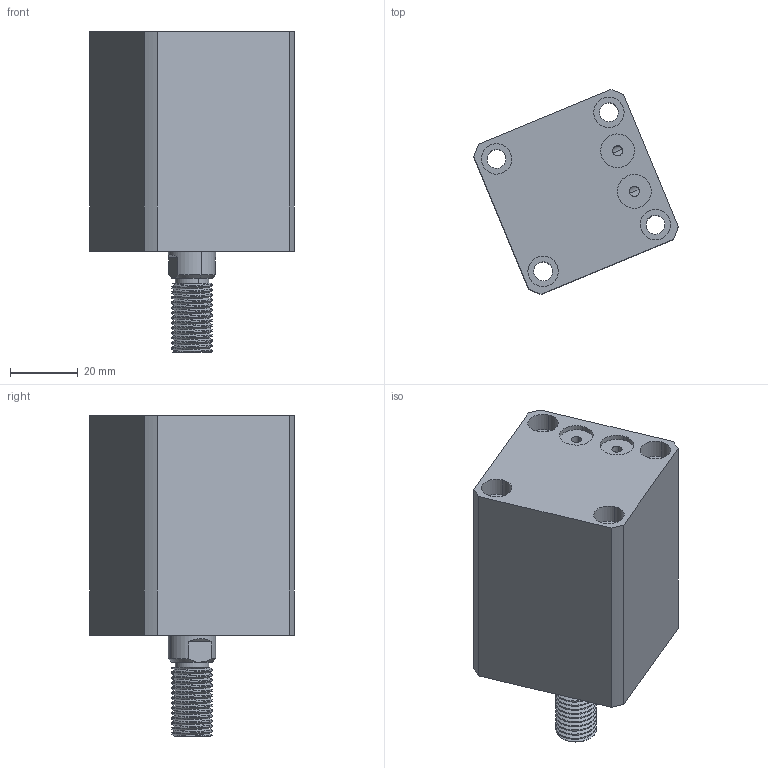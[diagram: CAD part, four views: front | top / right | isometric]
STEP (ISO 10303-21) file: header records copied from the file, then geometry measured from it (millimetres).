
FILE_DESCRIPTION (( 'STEP AP214' ), '1' );
FILE_NAME ('chtb-sdmb25x20w_asm.STEP', '2018-05-24T02:15:25', ( 'Windows' ), ( 'Microsoft' ), 'SwSTEP 2.0', 'SolidWorks 2015', '' );
FILE_SCHEMA (( 'AUTOMOTIVE_DESIGN' ));
Length unit declared in the file: millimetre
Products named in the file (4): CHTB-SDMB25X20WHSG; CHTB-SDMB25X20NBT; CHTB-25QG; chtb-sdmb25x20w_asm
Assembly tree (3 placements, depth 2):
  chtb-sdmb25x20w_asm
    CHTB-25QG
    CHTB-SDMB25X20NBT
    CHTB-SDMB25X20WHSG
Bounding box: 60.55 x 60.55 x 95 mm (x, y, z)
Volume: 135504.8 mm3; surface area: 38156.1 mm2
Topology: 3 solids, 3 shells, 176 faces, 476 edges, 323 vertices
Faces by surface type: cylinder 118, plane 37, bspline 12, cone 9
Entity records: 10721 total; most frequent: CARTESIAN_POINT 6406, ORIENTED_EDGE 944, DIRECTION 765, EDGE_CURVE 472, VERTEX_POINT 323, AXIS2_PLACEMENT_3D 310, EDGE_LOOP 215, FACE_OUTER_BOUND 176
